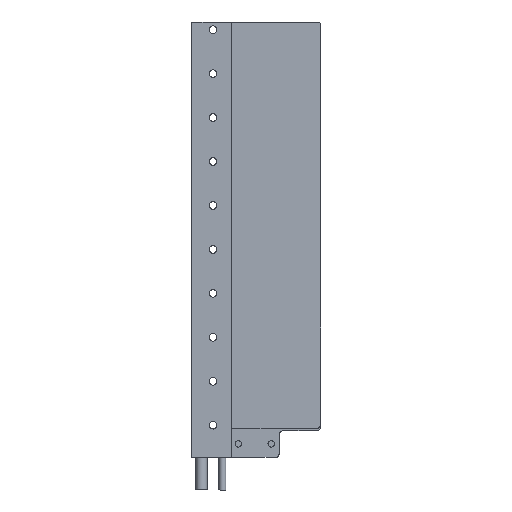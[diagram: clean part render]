
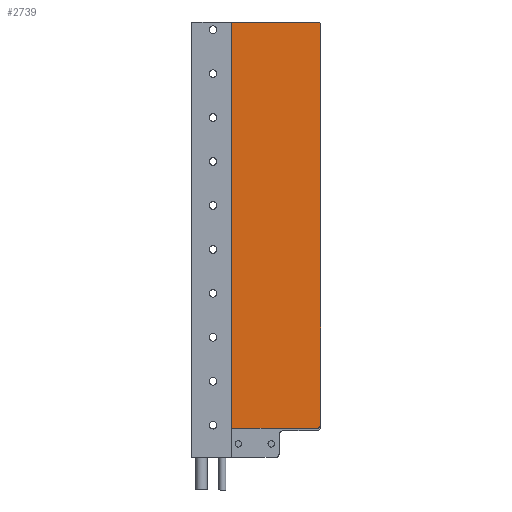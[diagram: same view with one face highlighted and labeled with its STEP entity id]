
A CAD part, front view. The second image highlights one B-rep face of the part: STEP entity #2739.
In plain terms, the highlighted planar face has unit normal (0, -1, 0).
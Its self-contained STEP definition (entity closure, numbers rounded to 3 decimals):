
#124 = CARTESIAN_POINT ( 'NONE',  ( 48.051, 104.17, 63.585 ) ) ;
#314 = DIRECTION ( 'NONE',  ( 0., -1., 0. ) ) ;
#397 = LINE ( 'NONE', #1330, #4434 ) ;
#504 = VERTEX_POINT ( 'NONE', #764 ) ;
#561 = AXIS2_PLACEMENT_3D ( 'NONE', #2523, #314, #770 ) ;
#598 = ORIENTED_EDGE ( 'NONE', *, *, #759, .F. ) ;
#641 = DIRECTION ( 'NONE',  ( 0., 0., -1. ) ) ;
#664 = ORIENTED_EDGE ( 'NONE', *, *, #2044, .F. ) ;
#681 = ORIENTED_EDGE ( 'NONE', *, *, #4951, .T. ) ;
#730 = DIRECTION ( 'NONE',  ( 0., -1., 0. ) ) ;
#736 = CARTESIAN_POINT ( 'NONE',  ( 31.551, 104.17, 248.585 ) ) ;
#759 = EDGE_CURVE ( 'NONE', #3531, #4378, #5468, .T. ) ;
#764 = CARTESIAN_POINT ( 'NONE',  ( 48.051, 104.17, 248.585 ) ) ;
#770 = DIRECTION ( 'NONE',  ( -1., 0., 0. ) ) ;
#918 = CIRCLE ( 'NONE', #3798, 2. ) ;
#1109 = CARTESIAN_POINT ( 'NONE',  ( 48.051, 104.17, 257.38 ) ) ;
#1150 = VECTOR ( 'NONE', #5247, 1000. ) ;
#1231 = DIRECTION ( 'NONE',  ( -1., 0., 0. ) ) ;
#1299 = LINE ( 'NONE', #1678, #1850 ) ;
#1310 = CARTESIAN_POINT ( 'NONE',  ( 86.651, 104.17, 63.585 ) ) ;
#1330 = CARTESIAN_POINT ( 'NONE',  ( 88.651, 104.17, 63.585 ) ) ;
#1530 = VECTOR ( 'NONE', #641, 1000. ) ;
#1678 = CARTESIAN_POINT ( 'NONE',  ( 48.051, 104.17, 257.38 ) ) ;
#1749 = VERTEX_POINT ( 'NONE', #2302 ) ;
#1850 = VECTOR ( 'NONE', #3445, 1000. ) ;
#1951 = CARTESIAN_POINT ( 'NONE',  ( 88.651, 104.17, 65.585 ) ) ;
#2035 = EDGE_CURVE ( 'NONE', #504, #4124, #1299, .T. ) ;
#2044 = EDGE_CURVE ( 'NONE', #4674, #4124, #397, .T. ) ;
#2144 = CIRCLE ( 'NONE', #561, 2. ) ;
#2296 = ORIENTED_EDGE ( 'NONE', *, *, #3998, .T. ) ;
#2302 = CARTESIAN_POINT ( 'NONE',  ( 87.705, 104.17, 248.585 ) ) ;
#2406 = EDGE_LOOP ( 'NONE', ( #598, #2296, #3743, #4526, #664, #681 ) ) ;
#2424 = CARTESIAN_POINT ( 'NONE',  ( 88.651, 104.17, 257.38 ) ) ;
#2456 = EDGE_CURVE ( 'NONE', #504, #1749, #5675, .T. ) ;
#2523 = CARTESIAN_POINT ( 'NONE',  ( 86.651, 104.17, 65.585 ) ) ;
#2739 = ADVANCED_FACE ( 'NONE', ( #4242 ), #4153, .F. ) ;
#2784 = CARTESIAN_POINT ( 'NONE',  ( 88.651, 104.17, 246.885 ) ) ;
#2799 = DIRECTION ( 'NONE',  ( -1., 0., 0. ) ) ;
#3445 = DIRECTION ( 'NONE',  ( 0., 0., -1. ) ) ;
#3531 = VERTEX_POINT ( 'NONE', #2784 ) ;
#3743 = ORIENTED_EDGE ( 'NONE', *, *, #2456, .F. ) ;
#3798 = AXIS2_PLACEMENT_3D ( 'NONE', #4712, #730, #1231 ) ;
#3998 = EDGE_CURVE ( 'NONE', #3531, #1749, #918, .T. ) ;
#4124 = VERTEX_POINT ( 'NONE', #124 ) ;
#4153 = PLANE ( 'NONE',  #4395 ) ;
#4242 = FACE_OUTER_BOUND ( 'NONE', #2406, .T. ) ;
#4378 = VERTEX_POINT ( 'NONE', #1951 ) ;
#4395 = AXIS2_PLACEMENT_3D ( 'NONE', #1109, #4680, #2799 ) ;
#4434 = VECTOR ( 'NONE', #5623, 1000. ) ;
#4526 = ORIENTED_EDGE ( 'NONE', *, *, #2035, .T. ) ;
#4674 = VERTEX_POINT ( 'NONE', #1310 ) ;
#4680 = DIRECTION ( 'NONE',  ( 0., 1., 0. ) ) ;
#4712 = CARTESIAN_POINT ( 'NONE',  ( 86.651, 104.17, 246.885 ) ) ;
#4951 = EDGE_CURVE ( 'NONE', #4674, #4378, #2144, .T. ) ;
#5247 = DIRECTION ( 'NONE',  ( 1., 0., 0. ) ) ;
#5468 = LINE ( 'NONE', #2424, #1530 ) ;
#5623 = DIRECTION ( 'NONE',  ( -1., 0., 0. ) ) ;
#5675 = LINE ( 'NONE', #736, #1150 ) ;
